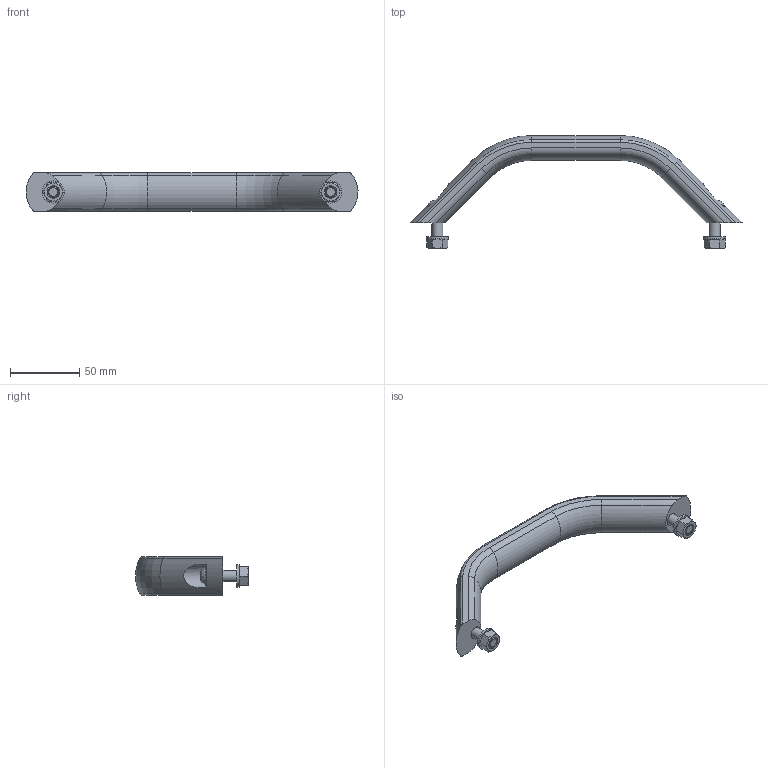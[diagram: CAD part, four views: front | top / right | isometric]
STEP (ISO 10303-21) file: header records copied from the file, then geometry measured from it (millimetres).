
FILE_DESCRIPTION( ( 'STEP AP203' ), '1' );
FILE_NAME( 'C:/Temp/Ganter_Step_05_03_2020/data/1_2/gn_428/gn_428_b/Cabinet U-handle GN 428-AL-28-200-B-SW.stp', '2020-03-05T10:11:33', ( 'License CC BY-ND 4.0' ), ( 'CADENAS' ), ' ', 'PARTsolutions', ' ' );
FILE_SCHEMA( ( 'CONFIG_CONTROL_DESIGN' ) );
Length unit declared in the file: millimetre
Products named in the file (1): _Cabinet U-handle GN 428-AL-28-200-B-SW
Bounding box: 239.43 x 81.4 x 28 mm (x, y, z)
Volume: 105858.9 mm3; surface area: 24775.4 mm2
Topology: 1 solids, 1 shells, 127 faces, 279 edges, 172 vertices
Faces by surface type: plane 56, cylinder 32, cone 25, torus 12, bspline 2
Full cylindrical faces by diameter (mm): 8 x4, 8.4 x2, 9 x2, 14 x2, 16 x2
Entity records: 3692 total; most frequent: CARTESIAN_POINT 956, DIRECTION 572, ORIENTED_EDGE 514, EDGE_CURVE 257, AXIS2_PLACEMENT_3D 239, VERTEX_POINT 171, EDGE_LOOP 166, FACE_OUTER_BOUND 141
